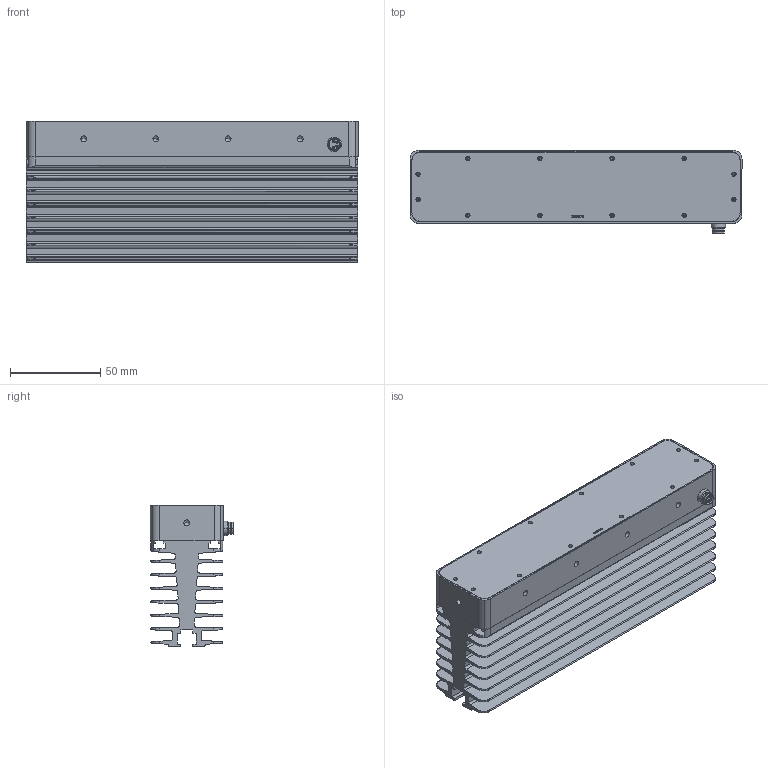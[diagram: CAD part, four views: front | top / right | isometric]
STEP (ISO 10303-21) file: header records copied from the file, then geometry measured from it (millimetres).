
FILE_DESCRIPTION(('STEP AP214'),'1');
FILE_NAME('Power-Line-160 Kundenzeichnung mit KK.stp','2020-12-07T15:44:53',(' '),(' '),'Spatial InterOp 3D',' ',' ');
FILE_SCHEMA(('AUTOMOTIVE_DESIGN { 1 0 10303 214 1 1 1 1 }'));
Length unit declared in the file: metre
Products named in the file (1): Volumenkörper
Bounding box: 184.2 x 46.31 x 78.7 mm (x, y, z)
Volume: 303857.9 mm3; surface area: 146987.5 mm2
Topology: 1 solids, 7 shells, 693 faces, 1798 edges, 1125 vertices
Faces by surface type: cylinder 322, plane 244, cone 88, sphere 16, extrusion 15, bspline 6, torus 2
Entity records: 23916 total; most frequent: CARTESIAN_POINT 4935, DIRECTION 3645, ORIENTED_EDGE 3436, EDGE_CURVE 1718, AXIS2_PLACEMENT_3D 1344, VERTEX_POINT 1125, VECTOR 957, LINE 942
